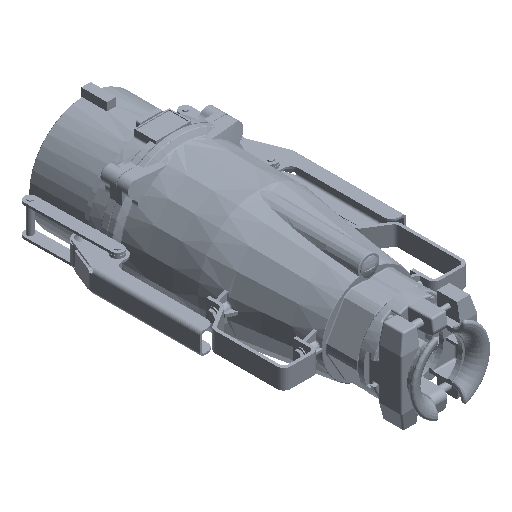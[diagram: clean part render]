
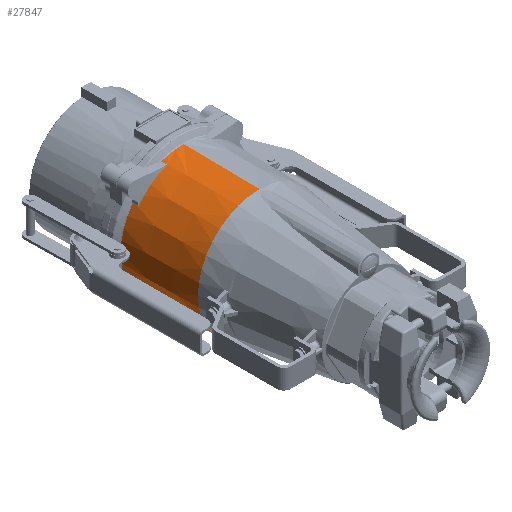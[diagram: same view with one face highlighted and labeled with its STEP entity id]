
A CAD part, isometric view. The second image highlights one B-rep face of the part: STEP entity #27847.
In plain terms, the highlighted conical face has half-angle 0.791 degrees and reference radius 79.472 mm.
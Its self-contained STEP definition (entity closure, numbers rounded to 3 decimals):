
#21112=DIRECTION('',(0.,-1.,-0.014));
#21113=VECTOR('',#21112,97.198);
#21114=CARTESIAN_POINT('',(581.349,-12.811,
3.143));
#21115=LINE('2555',#21114,#21113);
#21167=DIRECTION('',(0.,-1.,0.014));
#21168=VECTOR('',#21167,97.198);
#21169=CARTESIAN_POINT('',(581.349,-12.811,
-157.143));
#21170=LINE('2496',#21169,#21168);
#21174=CARTESIAN_POINT('',(553.096,-20.,-151.891));
#21175=CARTESIAN_POINT('',(553.062,-19.202,
-151.89));
#21176=CARTESIAN_POINT('',(552.994,-17.606,
-151.888));
#21177=CARTESIAN_POINT('',(552.891,-15.209,
-151.884));
#21178=CARTESIAN_POINT('',(552.822,-13.611,
-151.882));
#21179=CARTESIAN_POINT('',(552.788,-12.811,
-151.881));
#21184=CARTESIAN_POINT('',(516.352,-12.811,
-123.885));
#21185=CARTESIAN_POINT('',(516.332,-13.658,
-123.837));
#21186=CARTESIAN_POINT('',(516.288,-15.319,
-123.737));
#21187=CARTESIAN_POINT('',(516.212,-17.716,
-123.574));
#21188=CARTESIAN_POINT('',(516.146,-19.25,
-123.446));
#21189=CARTESIAN_POINT('',(516.107,-20.,-123.372));
#21194=CARTESIAN_POINT('',(516.107,-20.,-30.628));
#21195=CARTESIAN_POINT('',(516.146,-19.25,
-30.554));
#21196=CARTESIAN_POINT('',(516.212,-17.716,
-30.426));
#21197=CARTESIAN_POINT('',(516.288,-15.319,
-30.263));
#21198=CARTESIAN_POINT('',(516.332,-13.658,
-30.163));
#21199=CARTESIAN_POINT('',(516.352,-12.811,
-30.115));
#21204=CARTESIAN_POINT('',(581.349,-20.,-77.));
#21205=DIRECTION('',(0.,-1.,0.));
#21206=DIRECTION('',(-0.353,0.,0.936));
#21207=AXIS2_PLACEMENT_3D('',#21204,#21205,#21206);
#21212=CARTESIAN_POINT('',(552.788,-12.811,
-2.119));
#21213=CARTESIAN_POINT('',(552.822,-13.611,
-2.118));
#21214=CARTESIAN_POINT('',(552.891,-15.209,
-2.116));
#21215=CARTESIAN_POINT('',(552.994,-17.606,
-2.112));
#21216=CARTESIAN_POINT('',(553.062,-19.202,
-2.11));
#21217=CARTESIAN_POINT('',(553.096,-20.,-2.109));
#21354=CARTESIAN_POINT('',(581.349,-110.,-77.));
#21355=DIRECTION('',(0.,-1.,0.));
#21356=DIRECTION('',(0.,0.,1.));
#21357=AXIS2_PLACEMENT_3D('',#21354,#21355,#21356);
#25266=CARTESIAN_POINT('',(552.788,-12.811,
-151.881));
#25283=CARTESIAN_POINT('',(581.349,-12.811,
-77.));
#25284=DIRECTION('',(0.,1.,0.));
#25285=DIRECTION('',(0.,0.,-1.));
#25286=AXIS2_PLACEMENT_3D('',#25283,#25284,#25285);
#25551=CARTESIAN_POINT('',(553.096,-20.,-2.109));
#25585=CARTESIAN_POINT('',(516.107,-20.,-30.628));
#25668=CARTESIAN_POINT('',(516.107,-20.,-123.372));
#25680=CARTESIAN_POINT('',(581.349,-20.,-77.));
#25681=DIRECTION('',(0.,1.,0.));
#25682=DIRECTION('',(-0.353,0.,-0.936));
#25683=AXIS2_PLACEMENT_3D('',#25680,#25681,#25682);
#26901=CARTESIAN_POINT('',(516.352,-12.811,
-123.885));
#26914=CARTESIAN_POINT('',(516.352,-12.811,
-30.115));
#26933=CARTESIAN_POINT('',(581.349,-12.811,
-77.));
#26934=DIRECTION('',(0.,1.,0.));
#26935=DIRECTION('',(-0.811,0.,-0.585));
#26936=AXIS2_PLACEMENT_3D('',#26933,#26934,#26935);
#26953=CARTESIAN_POINT('',(552.788,-12.811,
-2.119));
#26999=CARTESIAN_POINT('',(581.349,-12.811,
-77.));
#27000=DIRECTION('',(0.,1.,0.));
#27001=DIRECTION('',(-0.356,0.,0.934));
#27002=AXIS2_PLACEMENT_3D('',#26999,#27000,#27001);
#27137=CARTESIAN_POINT('',(581.349,-110.,1.8));
#27139=VERTEX_POINT('',#27137);
#27560=CARTESIAN_POINT('',(581.349,-12.811,
-157.143));
#27561=VERTEX_POINT('',#27560);
#27646=VERTEX_POINT('',#25266);
#27648=VERTEX_POINT('',#25585);
#27673=VERTEX_POINT('',#26901);
#27679=VERTEX_POINT('',#26914);
#27687=VERTEX_POINT('',#25668);
#27690=VERTEX_POINT('',#25551);
#27691=CARTESIAN_POINT('',(553.096,-20.,-151.891));
#27692=VERTEX_POINT('',#27691);
#27693=CARTESIAN_POINT('',(581.349,-110.,-155.8));
#27694=VERTEX_POINT('',#27693);
#27723=VERTEX_POINT('',#26953);
#27724=CARTESIAN_POINT('',(581.349,-12.811,
3.143));
#27725=VERTEX_POINT('',#27724);
#27818=CARTESIAN_POINT('',(581.349,-61.406,
-77.));
#27819=DIRECTION('',(0.,1.,0.));
#27820=DIRECTION('',(0.,0.,-1.));
#27821=AXIS2_PLACEMENT_3D('',#27818,#27819,#27820);
#27822=CONICAL_SURFACE('2808',#27821,79.472,0.791);
#27824=ORIENTED_EDGE('2685',*,*,#27823,.T.);
#27825=ORIENTED_EDGE('2496',*,*,#27804,.F.);
#27827=ORIENTED_EDGE('2468',*,*,#27826,.T.);
#27829=ORIENTED_EDGE('2495',*,*,#27828,.F.);
#27831=ORIENTED_EDGE('2494',*,*,#27830,.T.);
#27833=ORIENTED_EDGE('2529',*,*,#27832,.F.);
#27835=ORIENTED_EDGE('2538',*,*,#27834,.T.);
#27837=ORIENTED_EDGE('2539',*,*,#27836,.F.);
#27839=ORIENTED_EDGE('2546',*,*,#27838,.F.);
#27841=ORIENTED_EDGE('2548',*,*,#27840,.F.);
#27843=ORIENTED_EDGE('2551',*,*,#27842,.T.);
#27844=ORIENTED_EDGE('2555',*,*,#27785,.T.);
#27845=EDGE_LOOP('2808',(#27824,#27825,#27827,#27829,#27831,#27833,#27835,
#27837,#27839,#27841,#27843,#27844));
#27846=FACE_OUTER_BOUND('2808',#27845,.F.);
#21180=B_SPLINE_CURVE_WITH_KNOTS('2495',3,(#21174,#21175,#21176,#21177,#21178,
#21179),.UNSPECIFIED.,.F.,.F.,(4,1,1,4),(0.,0.333,
0.667,1.),.UNSPECIFIED.);
#21190=B_SPLINE_CURVE_WITH_KNOTS('2529',3,(#21184,#21185,#21186,#21187,#21188,
#21189),.UNSPECIFIED.,.F.,.F.,(4,1,1,4),(0.,0.333,
0.667,1.),.UNSPECIFIED.);
#21200=B_SPLINE_CURVE_WITH_KNOTS('2539',3,(#21194,#21195,#21196,#21197,#21198,
#21199),.UNSPECIFIED.,.F.,.F.,(4,1,1,4),(0.,0.333,
0.667,1.),.UNSPECIFIED.);
#21208=CIRCLE('2546',#21207,80.043);
#21218=B_SPLINE_CURVE_WITH_KNOTS('2548',3,(#21212,#21213,#21214,#21215,#21216,
#21217),.UNSPECIFIED.,.F.,.F.,(4,1,1,4),(0.,0.333,
0.667,1.),.UNSPECIFIED.);
#21358=CIRCLE('2685',#21357,78.8);
#25287=CIRCLE('2468',#25286,80.143);
#25684=CIRCLE('2494',#25683,80.043);
#26937=CIRCLE('2538',#26936,80.143);
#27003=CIRCLE('2551',#27002,80.143);
#27785=EDGE_CURVE('2555',#27725,#27139,#21115,.T.);
#27804=EDGE_CURVE('2496',#27561,#27694,#21170,.T.);
#27823=EDGE_CURVE('2685',#27139,#27694,#21358,.T.);
#27826=EDGE_CURVE('2468',#27561,#27646,#25287,.T.);
#27828=EDGE_CURVE('2495',#27692,#27646,#21180,.T.);
#27830=EDGE_CURVE('2494',#27692,#27687,#25684,.T.);
#27832=EDGE_CURVE('2529',#27673,#27687,#21190,.T.);
#27834=EDGE_CURVE('2538',#27673,#27679,#26937,.T.);
#27836=EDGE_CURVE('2539',#27648,#27679,#21200,.T.);
#27838=EDGE_CURVE('2546',#27690,#27648,#21208,.T.);
#27840=EDGE_CURVE('2548',#27723,#27690,#21218,.T.);
#27842=EDGE_CURVE('2551',#27723,#27725,#27003,.T.);
#27847=ADVANCED_FACE('2808',(#27846),#27822,.T.);
